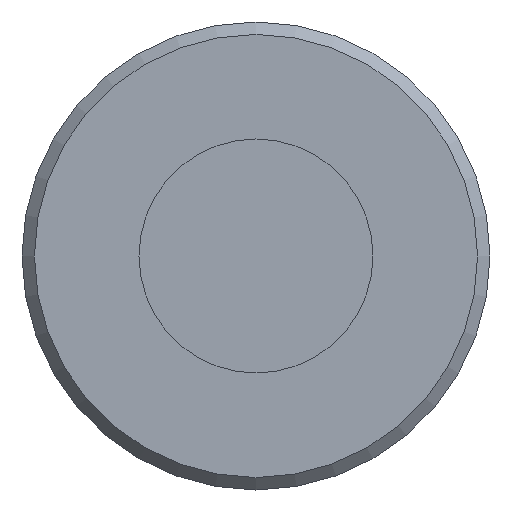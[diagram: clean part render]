
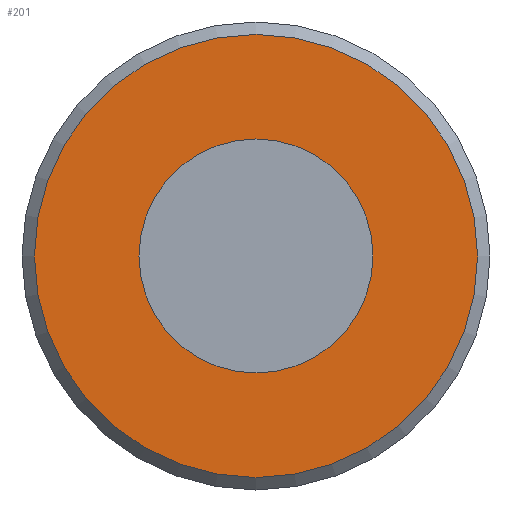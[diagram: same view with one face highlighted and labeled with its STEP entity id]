
A CAD part, left-side view. The second image highlights one B-rep face of the part: STEP entity #201.
In plain terms, the highlighted planar face has unit normal (-1, 0, 0).
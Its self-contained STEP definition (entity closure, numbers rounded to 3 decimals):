
#19=PLANE($,#231);
#33=FACE_BOUND($,#73,.T.);
#34=FACE_BOUND($,#74,.T.);
#73=EDGE_LOOP($,(#153));
#74=EDGE_LOOP($,(#154));
#87=CIRCLE($,#213,1.194);
#96=CIRCLE($,#232,2.261);
#103=VERTEX_POINT($,#316);
#112=VERTEX_POINT($,#344);
#119=EDGE_CURVE($,#103,#103,#87,.T.);
#128=EDGE_CURVE($,#112,#112,#96,.T.);
#153=ORIENTED_EDGE($,*,*,#119,.T.);
#154=ORIENTED_EDGE($,*,*,#128,.F.);
#201=ADVANCED_FACE($,(#33,#34),#19,.T.);
#213=AXIS2_PLACEMENT_3D($,#317,#250,#251);
#231=AXIS2_PLACEMENT_3D($,#343,#286,#287);
#232=AXIS2_PLACEMENT_3D($,#345,#288,#289);
#250=DIRECTION('center_axis',(1.,0.,0.));
#251=DIRECTION('ref_axis',(0.,1.,0.));
#286=DIRECTION('center_axis',(-1.,0.,0.));
#287=DIRECTION('ref_axis',(0.,0.,1.));
#288=DIRECTION('center_axis',(1.,0.,0.));
#289=DIRECTION('ref_axis',(0.,-1.,0.));
#316=CARTESIAN_POINT('',(-14.764,7.997,0.));
#317=CARTESIAN_POINT('Origin',(-14.764,6.803,0.));
#343=CARTESIAN_POINT('Origin',(-14.764,7.997,0.));
#344=CARTESIAN_POINT('',(-14.764,9.064,0.));
#345=CARTESIAN_POINT('Origin',(-14.764,6.803,0.));
